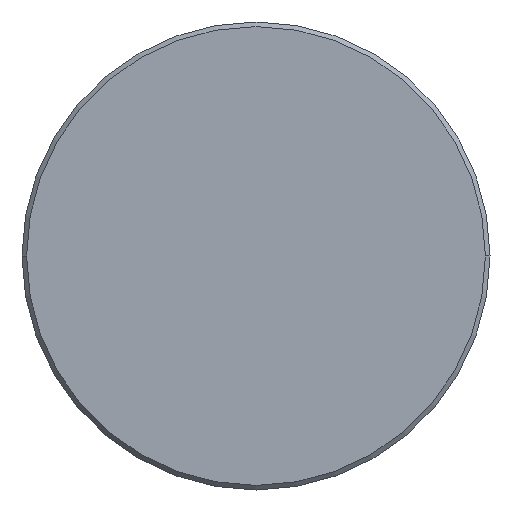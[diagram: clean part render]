
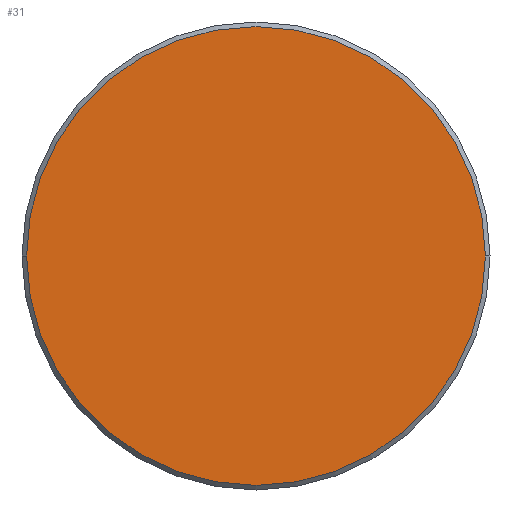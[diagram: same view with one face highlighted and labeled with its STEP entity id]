
A CAD part, left-side view. The second image highlights one B-rep face of the part: STEP entity #31.
In plain terms, the highlighted planar face has unit normal (-1, 0, 0).
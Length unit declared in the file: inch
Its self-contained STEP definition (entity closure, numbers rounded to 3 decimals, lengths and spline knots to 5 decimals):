
#11 = CARTESIAN_POINT ( 'NONE',  ( 0., -0.19912, 0. ) ) ;
#31 = ADVANCED_FACE ( 'NONE', ( #60 ), #145, .T. ) ;
#60 = FACE_OUTER_BOUND ( 'NONE', #114, .T. ) ;
#64 = DIRECTION ( 'NONE',  ( -1., 0., 0. ) ) ;
#82 = DIRECTION ( 'NONE',  ( 0., -1., 0. ) ) ;
#102 = CARTESIAN_POINT ( 'NONE',  ( 0., 0.19912, 0. ) ) ;
#107 = AXIS2_PLACEMENT_3D ( 'NONE', #360, #64, #264 ) ;
#114 = EDGE_LOOP ( 'NONE', ( #266, #187 ) ) ;
#125 = AXIS2_PLACEMENT_3D ( 'NONE', #380, #318, #376 ) ;
#140 = AXIS2_PLACEMENT_3D ( 'NONE', #339, #312, #82 ) ;
#141 = EDGE_CURVE ( 'NONE', #355, #330, #224, .T. ) ;
#145 = PLANE ( 'NONE',  #140 ) ;
#187 = ORIENTED_EDGE ( 'NONE', *, *, #236, .T. ) ;
#205 = CIRCLE ( 'NONE', #107, 0.19912 ) ;
#224 = CIRCLE ( 'NONE', #125, 0.19912 ) ;
#236 = EDGE_CURVE ( 'NONE', #330, #355, #205, .T. ) ;
#264 = DIRECTION ( 'NONE',  ( 0., -1., 0. ) ) ;
#266 = ORIENTED_EDGE ( 'NONE', *, *, #141, .T. ) ;
#312 = DIRECTION ( 'NONE',  ( -1., 0., 0. ) ) ;
#318 = DIRECTION ( 'NONE',  ( -1., 0., 0. ) ) ;
#330 = VERTEX_POINT ( 'NONE', #11 ) ;
#339 = CARTESIAN_POINT ( 'NONE',  ( 0., 0., 0. ) ) ;
#355 = VERTEX_POINT ( 'NONE', #102 ) ;
#360 = CARTESIAN_POINT ( 'NONE',  ( 0., 0., 0. ) ) ;
#376 = DIRECTION ( 'NONE',  ( 0., -1., 0. ) ) ;
#380 = CARTESIAN_POINT ( 'NONE',  ( 0., 0., 0. ) ) ;
